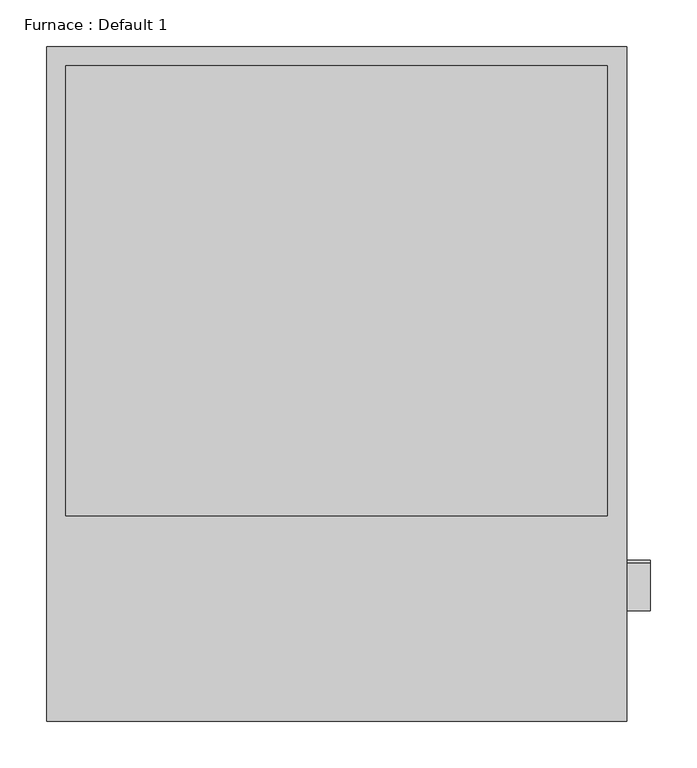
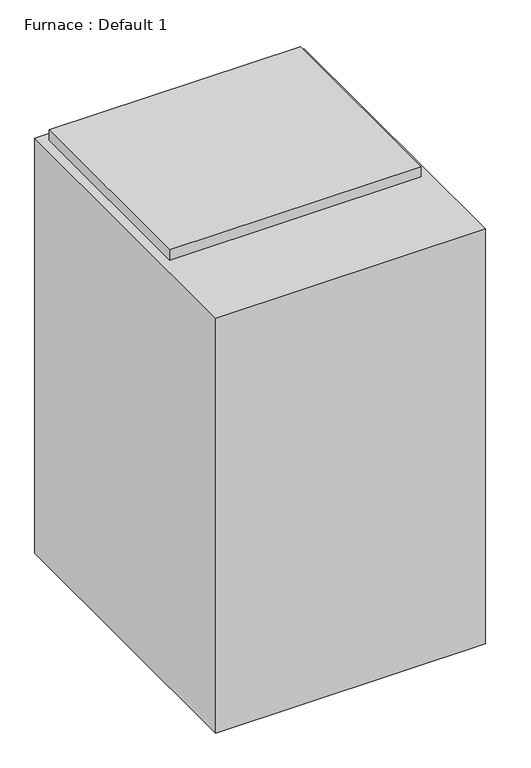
"""IFC4 building model written with IfcOpenShell, lengths in millimetres: proxy geometry, Furnace : Default 1."""

from ifc_helpers import new_model, si_unit, frame, origin, place, context, project, spatial, circle_curve, source, transform, mapped, element, save
from ifc_brep_helpers import plane_surface, cylinder_surface, advanced_brep


def furnace_default_1_517aed99(model_context):
    return source(origin(), model_context, "Body", "AdvancedBrep", [
        advanced_brep(
        [(0.0, 0.0, 1012.825), (-622.3, 0.0, 1012.825), (-622.3, -723.9, 1012.825), (0.0, -723.9, 1012.825), (-601.6625, -20.6375, 1012.825), (-20.6375, -20.6375, 1012.825), (-20.6375, -503.2375, 1012.825), (-601.6625, -503.2375, 1012.825), (0.0, 0.0, 0.0), (0.0, -723.9, 0.0), (-622.3, -723.9, 0.0), (-622.3, 0.0, 0.0), (0.0, -554.5666667, 844.55), (0.0, -605.3666667, 844.55), (0.0, -573.6166667, 774.7), (0.0, -586.3166667, 774.7), (0.0, -550.8625, 463.55), (0.0, -601.6625, 463.55), (25.4, -605.3666667, 844.55), (25.4, -554.5666667, 844.55), (25.4, -586.3166667, 774.7), (25.4, -573.6166667, 774.7), (25.4, -601.6625, 463.55), (25.4, -550.8625, 463.55), (-20.6375, -20.6375, 1038.225), (-601.6625, -20.6375, 1038.225), (-601.6625, -503.2375, 1038.225), (-20.6375, -503.2375, 1038.225)],
        [
            (0, 1),
            (1, 2),
            (2, 3),
            (3, 0),
            (4, 5),
            (5, 6),
            (6, 7),
            (7, 4),
            (8, 9),
            (9, 10),
            (10, 11),
            (11, 8),
            (0, 8),
            (11, 1),
            (10, 2),
            (9, 3),
            (12, 13, circle_curve(frame((0.0, -579.9666667, 844.55), z_axis=(-1.0, 0.0, 0.0), x_axis=(0.0, 1.0, 0.0)), 25.4)),
            (13, 12, circle_curve(frame((0.0, -579.9666667, 844.55), z_axis=(-1.0, 0.0, 0.0), x_axis=(0.0, 1.0, 0.0)), 25.4)),
            (14, 15, circle_curve(frame((0.0, -579.9666667, 774.7), z_axis=(-1.0, 0.0, 0.0), x_axis=(0.0, 1.0, 0.0)), 6.35)),
            (15, 14, circle_curve(frame((0.0, -579.9666667, 774.7), z_axis=(-1.0, 0.0, 0.0), x_axis=(0.0, 1.0, 0.0)), 6.35)),
            (16, 17, circle_curve(frame((0.0, -576.2625, 463.55), z_axis=(-1.0, 0.0, 0.0), x_axis=(0.0, 1.0, 0.0)), 25.4)),
            (17, 16, circle_curve(frame((0.0, -576.2625, 463.55), z_axis=(-1.0, 0.0, 0.0), x_axis=(0.0, 1.0, 0.0)), 25.4)),
            (18, 19, circle_curve(frame((25.4, -579.9666667, 844.55), z_axis=(1.0, 0.0, 0.0), x_axis=(0.0, 1.0, 0.0)), 25.4)),
            (19, 18, circle_curve(frame((25.4, -579.9666667, 844.55), z_axis=(1.0, 0.0, 0.0), x_axis=(0.0, 1.0, 0.0)), 25.4)),
            (20, 21, circle_curve(frame((25.4, -579.9666667, 774.7), z_axis=(1.0, 0.0, 0.0), x_axis=(0.0, 1.0, 0.0)), 6.35)),
            (21, 20, circle_curve(frame((25.4, -579.9666667, 774.7), z_axis=(1.0, 0.0, 0.0), x_axis=(0.0, 1.0, 0.0)), 6.35)),
            (22, 23, circle_curve(frame((25.4, -576.2625, 463.55), z_axis=(1.0, 0.0, 0.0), x_axis=(0.0, 1.0, 0.0)), 25.4)),
            (23, 22, circle_curve(frame((25.4, -576.2625, 463.55), z_axis=(1.0, 0.0, 0.0), x_axis=(0.0, 1.0, 0.0)), 25.4)),
            (18, 13),
            (12, 19),
            (20, 15),
            (14, 21),
            (22, 17),
            (16, 23),
            (24, 25),
            (25, 26),
            (26, 27),
            (27, 24),
            (24, 5),
            (4, 25),
            (7, 26),
            (6, 27),
        ],
        [
            plane_surface(frame((-622.3, 0.0, 1012.825), z_axis=(0.0, 0.0, 1.0), x_axis=(-1.0, 0.0, 0.0))),
            plane_surface(frame((-622.3, 0.0, 0.0), z_axis=(0.0, 0.0, -1.0), x_axis=(1.0, 0.0, 0.0))),
            plane_surface(frame((0.0, 0.0, 1012.825), z_axis=(0.0, 1.0, 0.0), x_axis=(0.0, 0.0, -1.0))),
            plane_surface(frame((-622.3, 0.0, 1012.825), z_axis=(-1.0, 0.0, 0.0), x_axis=(0.0, 0.0, -1.0))),
            plane_surface(frame((-622.3, -723.9, 1012.825), z_axis=(0.0, -1.0, 0.0), x_axis=(0.0, 0.0, -1.0))),
            plane_surface(frame((0.0, -723.9, 1012.825), z_axis=(1.0, 0.0, 0.0), x_axis=(0.0, 0.0, -1.0))),
            plane_surface(frame((25.4, -554.5666667, 844.55), z_axis=(1.0, 0.0, 0.0), x_axis=(0.0, 0.0, 1.0))),
            cylinder_surface(frame((0.0, -579.9666667, 844.55), z_axis=(1.0, 0.0, 0.0), x_axis=(0.0, 1.0, 0.0)), 25.4),
            cylinder_surface(frame((0.0, -579.9666667, 774.7), z_axis=(1.0, 0.0, 0.0), x_axis=(0.0, 1.0, 0.0)), 6.35),
            cylinder_surface(frame((0.0, -576.2625, 463.55), z_axis=(1.0, 0.0, 0.0), x_axis=(0.0, 1.0, 0.0)), 25.4),
            plane_surface(frame((-601.6625, -20.6375, 1038.225), z_axis=(0.0, 0.0, 1.0), x_axis=(-1.0, 0.0, 0.0))),
            plane_surface(frame((-20.6375, -20.6375, 1038.225), z_axis=(0.0, 1.0, 0.0), x_axis=(0.0, 0.0, -1.0))),
            plane_surface(frame((-601.6625, -20.6375, 1038.225), z_axis=(-1.0, 0.0, 0.0), x_axis=(0.0, 0.0, -1.0))),
            plane_surface(frame((-601.6625, -503.2375, 1038.225), z_axis=(0.0, -1.0, 0.0), x_axis=(0.0, 0.0, -1.0))),
            plane_surface(frame((-20.6375, -503.2375, 1038.225), z_axis=(1.0, 0.0, 0.0), x_axis=(0.0, 0.0, -1.0))),
        ],
        [
            (0, [[1, 2, 3, 4], [5, 6, 7, 8]]),
            (1, [[9, 10, 11, 12]]),
            (2, [[-1, 13, -12, 14]]),
            (3, [[-2, -14, -11, 15]]),
            (4, [[-3, -15, -10, 16]]),
            (5, [[-4, -16, -9, -13], [17, 18], [19, 20], [21, 22]]),
            (6, [[23, 24]]),
            (6, [[25, 26]]),
            (6, [[27, 28]]),
            (7, [[-23, 29, -17, 30]]),
            (7, [[-24, -30, -18, -29]]),
            (8, [[-25, 31, -19, 32]]),
            (8, [[-26, -32, -20, -31]]),
            (9, [[-27, 33, -21, 34]]),
            (9, [[-28, -34, -22, -33]]),
            (10, [[35, 36, 37, 38]]),
            (11, [[-35, 39, -5, 40]]),
            (12, [[-36, -40, -8, 41]]),
            (13, [[-37, -41, -7, 42]]),
            (14, [[-38, -42, -6, -39]]),
        ],
    ),
    ])


if __name__ == "__main__":
    model = new_model("IFC4")
    model_context = context("Model", 3, world=origin())
    ifc_project = project(units=[si_unit("LENGTHUNIT", "METRE", prefix="MILLI")], contexts=[model_context])
    site = spatial("IfcSite", under=ifc_project)
    building = spatial("IfcBuilding", under=site)
    placement = place(None, origin())
    furnace_default_1_shape = furnace_default_1_517aed99(model_context)
    element("IfcBuildingElementProxy", 1, Name="Furnace : Default 1", ObjectType="Furnace : Default 1", at=placement, inside=building, context=model_context, shape_type="MappedRepresentation", body=[
        mapped(furnace_default_1_shape, transform((0.0, 0.0, 0.0), x_axis=(1.0, 0.0, 0.0), y_axis=(0.0, 1.0, 0.0), z_axis=(0.0, 0.0, 1.0))),
    ])
    save(model, "model.ifc")
